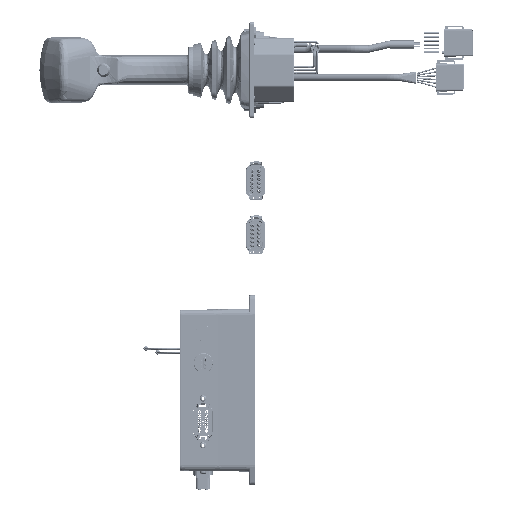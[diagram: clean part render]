
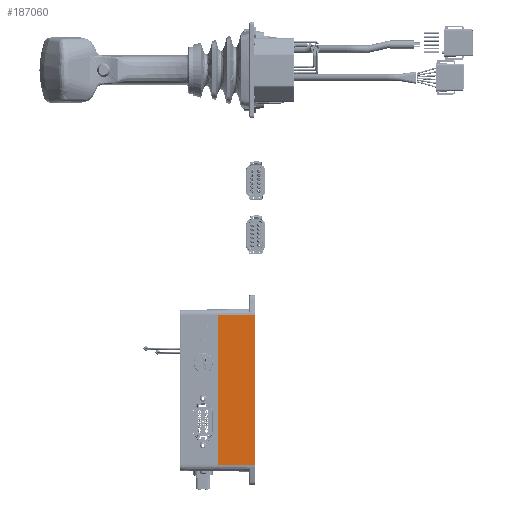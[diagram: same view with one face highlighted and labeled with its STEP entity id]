
A CAD part, left-side view. The second image highlights one B-rep face of the part: STEP entity #187060.
In plain terms, the highlighted planar face has unit normal (-1, 0.018, -0.003).
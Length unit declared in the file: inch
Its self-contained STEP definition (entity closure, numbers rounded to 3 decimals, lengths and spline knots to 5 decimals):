
#9020 = LINE ( 'NONE', #142548, #172426 ) ;
#10387 = VECTOR ( 'NONE', #97016, 39.37008 ) ;
#22435 = VERTEX_POINT ( 'NONE', #23801 ) ;
#23801 = CARTESIAN_POINT ( 'NONE',  ( -2.39217, -1.5648, -3.12884 ) ) ;
#27074 = ORIENTED_EDGE ( 'NONE', *, *, #69645, .T. ) ;
#49189 = VECTOR ( 'NONE', #192511, 39.37008 ) ;
#50038 = PLANE ( 'NONE',  #57020 ) ;
#50707 = DIRECTION ( 'NONE',  ( -1., 0.017, -0.003 ) ) ;
#51480 = FACE_OUTER_BOUND ( 'NONE', #151307, .T. ) ;
#53149 = DIRECTION ( 'NONE',  ( -0.017, -1., 0. ) ) ;
#57020 = AXIS2_PLACEMENT_3D ( 'NONE', #142764, #50707, #158088 ) ;
#66260 = ORIENTED_EDGE ( 'NONE', *, *, #71104, .F. ) ;
#69645 = EDGE_CURVE ( 'NONE', #22435, #86937, #169035, .T. ) ;
#71104 = EDGE_CURVE ( 'NONE', #125736, #86937, #171726, .T. ) ;
#86541 = CARTESIAN_POINT ( 'NONE',  ( -2.36537, -0.02937, -3.12876 ) ) ;
#86937 = VERTEX_POINT ( 'NONE', #179060 ) ;
#97016 = DIRECTION ( 'NONE',  ( -0.003, 0., 1. ) ) ;
#106930 = EDGE_CURVE ( 'NONE', #141440, #22435, #167659, .T. ) ;
#111198 = ORIENTED_EDGE ( 'NONE', *, *, #106930, .T. ) ;
#112302 = DIRECTION ( 'NONE',  ( 0.003, 0., -1. ) ) ;
#120833 = EDGE_CURVE ( 'NONE', #125736, #141440, #9020, .T. ) ;
#122054 = VECTOR ( 'NONE', #53149, 39.37008 ) ;
#125736 = VERTEX_POINT ( 'NONE', #126044 ) ;
#126044 = CARTESIAN_POINT ( 'NONE',  ( -2.38472, -0.02937, 3.12277 ) ) ;
#126604 = CARTESIAN_POINT ( 'NONE',  ( -2.41152, -1.5648, 3.12269 ) ) ;
#129809 = CARTESIAN_POINT ( 'NONE',  ( -2.36537, -0.02937, -3.12876 ) ) ;
#141440 = VERTEX_POINT ( 'NONE', #86541 ) ;
#142548 = CARTESIAN_POINT ( 'NONE',  ( -2.37504, -0.02937, -0.003 ) ) ;
#142764 = CARTESIAN_POINT ( 'NONE',  ( -2.37504, -0.02937, -0.003 ) ) ;
#151307 = EDGE_LOOP ( 'NONE', ( #27074, #66260, #182695, #111198 ) ) ;
#158088 = DIRECTION ( 'NONE',  ( 0.017, 1., 0. ) ) ;
#167659 = LINE ( 'NONE', #129809, #122054 ) ;
#169035 = LINE ( 'NONE', #126604, #10387 ) ;
#171726 = LINE ( 'NONE', #177028, #49189 ) ;
#172426 = VECTOR ( 'NONE', #112302, 39.37008 ) ;
#177028 = CARTESIAN_POINT ( 'NONE',  ( -345.29951, -19645.69866, 2.06138 ) ) ;
#179060 = CARTESIAN_POINT ( 'NONE',  ( -2.41152, -1.5648, 3.12269 ) ) ;
#182695 = ORIENTED_EDGE ( 'NONE', *, *, #120833, .T. ) ;
#187060 = ADVANCED_FACE ( 'NONE', ( #51480 ), #50038, .T. ) ;
#192511 = DIRECTION ( 'NONE',  ( -0.017, -1., 0. ) ) ;
